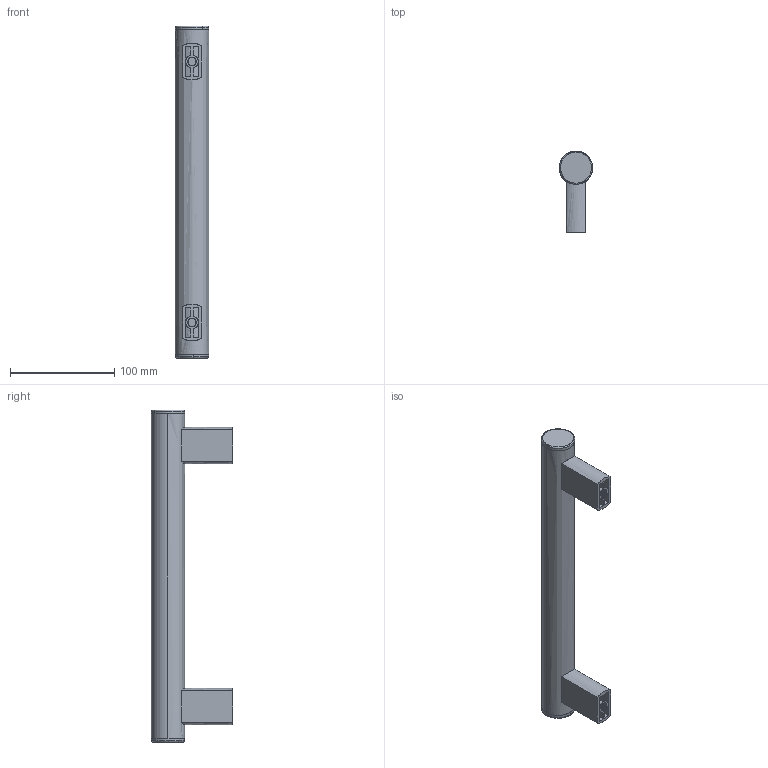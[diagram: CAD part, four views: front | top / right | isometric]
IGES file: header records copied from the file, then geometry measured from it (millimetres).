
Start section: SolidWorks IGES file using analytic representation for surfaces
Global section: file name: C:\Documents and Settings\Deathkiller\桌面\3D IGES\U型把手\MS-737-2 sus\p=250.IGS; native system: SolidWorks 2006 by SolidWorks Corporation; preprocessor: SolidWorks 2006 by SolidWorks Corporation; author: Deathkiller; date: 080624.122124; units: millimetre
Bounding box: 31.8 x 77.9 x 318 mm (x, y, z)
Surface area: 89751.2 mm2 (no closed solid volume)
Topology: 0 solids, 0 shells, 190 faces, 5022 edges, 5022 vertices
Faces by surface type: revolution 142, bspline 48
